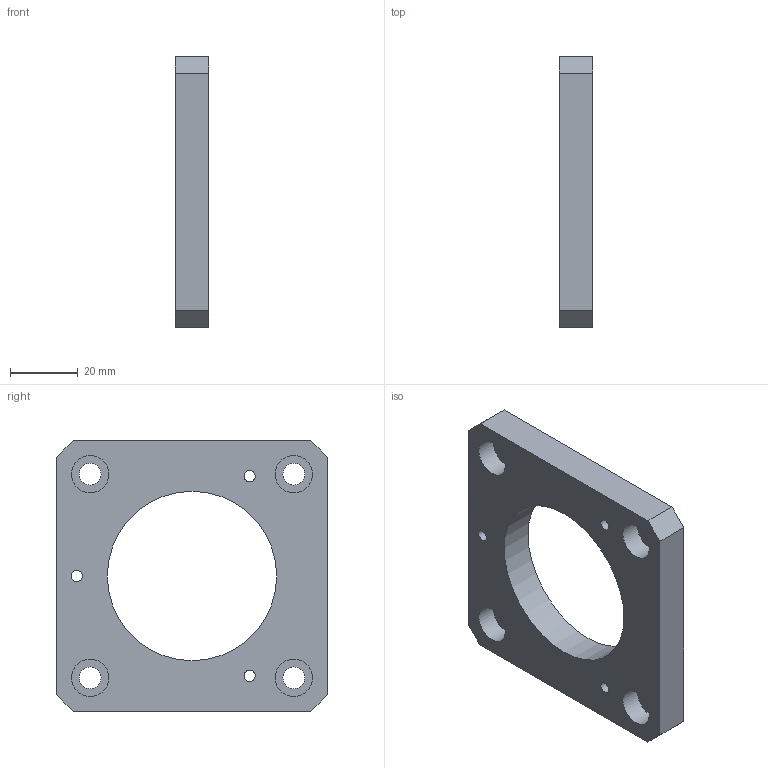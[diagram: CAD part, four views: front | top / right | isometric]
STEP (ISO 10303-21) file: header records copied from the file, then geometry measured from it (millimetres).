
FILE_DESCRIPTION (( 'STEP AP214' ), '1' );
FILE_NAME ('168212 Montageplatte.STEP', '2012-06-19T12:51:33', ( 'Camille Bauer AG' ), ( '' ), 'SwSTEP 2.0', 'SolidWorks 2010', '' );
FILE_SCHEMA (( 'AUTOMOTIVE_DESIGN' ));
Length unit declared in the file: millimetre
Products named in the file (1): 168212 Montageplatte
Bounding box: 10 x 80 x 80 mm (x, y, z)
Volume: 40812.9 mm3; surface area: 14580.1 mm2
Topology: 1 solids, 1 shells, 26 faces, 67 edges, 47 vertices
Faces by surface type: plane 14, cylinder 12
Full cylindrical faces by diameter (mm): 3.3 x3, 6.4 x4, 11 x4, 50 x1
Entity records: 787 total; most frequent: DIRECTION 126, CARTESIAN_POINT 115, ORIENTED_EDGE 96, EDGE_LOOP 58, AXIS2_PLACEMENT_3D 51, EDGE_CURVE 48, VERTEX_POINT 40, FACE_OUTER_BOUND 38
